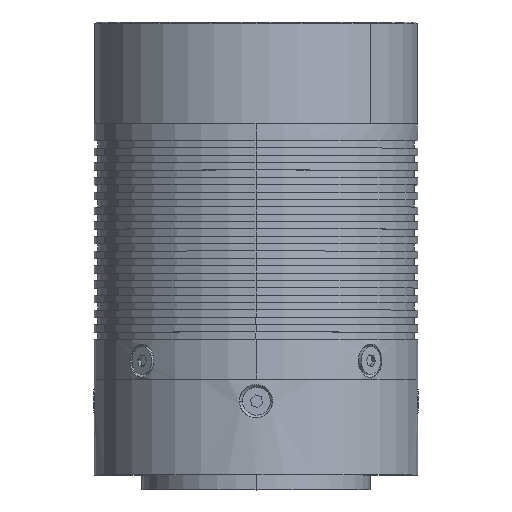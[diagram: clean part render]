
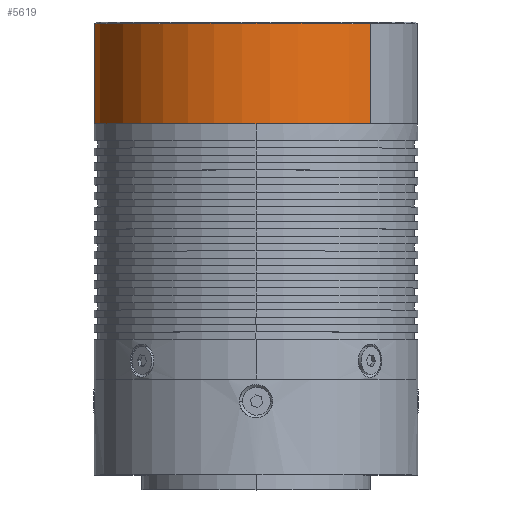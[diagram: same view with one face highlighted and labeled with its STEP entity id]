
A CAD part, top view. The second image highlights one B-rep face of the part: STEP entity #5619.
In plain terms, the highlighted cylindrical face has radius 22 mm (diameter 44 mm), a partial arc.
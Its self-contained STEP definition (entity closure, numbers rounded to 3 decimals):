
#672 = AXIS2_PLACEMENT_3D ( 'NONE', #3820, #2748, #11454 ) ;
#867 = CARTESIAN_POINT ( 'NONE',  ( 0., 34.2, 0. ) ) ;
#1511 = VECTOR ( 'NONE', #6219, 1000. ) ;
#1699 = VERTEX_POINT ( 'NONE', #13565 ) ;
#1904 = CARTESIAN_POINT ( 'NONE',  ( -15.556, 47.1, -15.556 ) ) ;
#2609 = EDGE_CURVE ( 'NONE', #1699, #11229, #9528, .T. ) ;
#2748 = DIRECTION ( 'NONE',  ( 0., -1., 0. ) ) ;
#2768 = CYLINDRICAL_SURFACE ( 'NONE', #13487, 22. ) ;
#3130 = VERTEX_POINT ( 'NONE', #3409 ) ;
#3409 = CARTESIAN_POINT ( 'NONE',  ( -15.556, 47.8, -15.556 ) ) ;
#3820 = CARTESIAN_POINT ( 'NONE',  ( 0., 47.8, 0. ) ) ;
#4086 = LINE ( 'NONE', #10728, #1511 ) ;
#4973 = FACE_OUTER_BOUND ( 'NONE', #7337, .T. ) ;
#5045 = DIRECTION ( 'NONE',  ( -0.707, 0., -0.707 ) ) ;
#5330 = ORIENTED_EDGE ( 'NONE', *, *, #8105, .T. ) ;
#5619 = ADVANCED_FACE ( 'NONE', ( #4973 ), #2768, .T. ) ;
#5774 = VECTOR ( 'NONE', #8389, 1000. ) ;
#6028 = LINE ( 'NONE', #1904, #5774 ) ;
#6040 = DIRECTION ( 'NONE',  ( 0., -1., 0. ) ) ;
#6219 = DIRECTION ( 'NONE',  ( 0., -1., 0. ) ) ;
#6558 = AXIS2_PLACEMENT_3D ( 'NONE', #867, #10574, #10365 ) ;
#6842 = EDGE_CURVE ( 'NONE', #8879, #1699, #4086, .T. ) ;
#7337 = EDGE_LOOP ( 'NONE', ( #9019, #5330, #12626, #11920 ) ) ;
#8105 = EDGE_CURVE ( 'NONE', #8879, #3130, #10034, .T. ) ;
#8389 = DIRECTION ( 'NONE',  ( 0., -1., 0. ) ) ;
#8555 = CARTESIAN_POINT ( 'NONE',  ( 15.556, 47.8, 15.556 ) ) ;
#8879 = VERTEX_POINT ( 'NONE', #8555 ) ;
#9019 = ORIENTED_EDGE ( 'NONE', *, *, #6842, .F. ) ;
#9528 = CIRCLE ( 'NONE', #6558, 22. ) ;
#10034 = CIRCLE ( 'NONE', #672, 22. ) ;
#10365 = DIRECTION ( 'NONE',  ( -0.707, 0., -0.707 ) ) ;
#10574 = DIRECTION ( 'NONE',  ( 0., -1., 0. ) ) ;
#10728 = CARTESIAN_POINT ( 'NONE',  ( 15.556, 47.1, 15.556 ) ) ;
#10847 = EDGE_CURVE ( 'NONE', #3130, #11229, #6028, .T. ) ;
#11229 = VERTEX_POINT ( 'NONE', #13091 ) ;
#11454 = DIRECTION ( 'NONE',  ( 0.707, 0., 0.707 ) ) ;
#11920 = ORIENTED_EDGE ( 'NONE', *, *, #2609, .F. ) ;
#12626 = ORIENTED_EDGE ( 'NONE', *, *, #10847, .T. ) ;
#13091 = CARTESIAN_POINT ( 'NONE',  ( -15.556, 34.2, -15.556 ) ) ;
#13487 = AXIS2_PLACEMENT_3D ( 'NONE', #13684, #6040, #5045 ) ;
#13565 = CARTESIAN_POINT ( 'NONE',  ( 15.556, 34.2, 15.556 ) ) ;
#13684 = CARTESIAN_POINT ( 'NONE',  ( 0., 47.1, 0. ) ) ;
